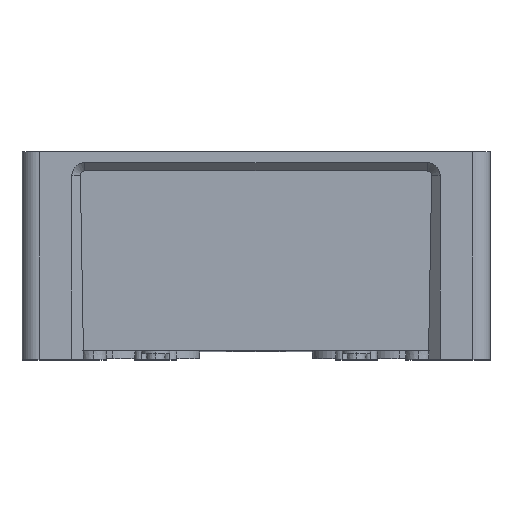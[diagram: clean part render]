
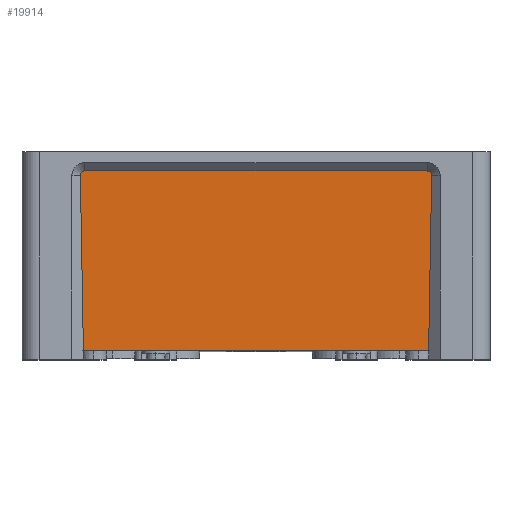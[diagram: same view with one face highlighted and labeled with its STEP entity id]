
A CAD part, top view. The second image highlights one B-rep face of the part: STEP entity #19914.
In plain terms, the highlighted planar face has unit normal (0, -0.018, 1).
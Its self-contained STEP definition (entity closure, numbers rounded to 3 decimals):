
#11809 = CARTESIAN_POINT ( 'NONE',  ( 61.255, -8.3, 97.655 ) ) ;
#11810 = CARTESIAN_POINT ( 'NONE',  ( 61.271, -7.376, 97.671 ) ) ;
#11811 = CARTESIAN_POINT ( 'NONE',  ( 60.624, -6.717, 97.683 ) ) ;
#11812 = CARTESIAN_POINT ( 'NONE',  ( 59.7, -6.717, 97.683 ) ) ;
#11813 =( BOUNDED_CURVE ( )  B_SPLINE_CURVE ( 3, ( #11812, #11811, #11810, #11809 ),
 .UNSPECIFIED., .F., .T. ) 
 B_SPLINE_CURVE_WITH_KNOTS ( ( 4, 4 ),
 ( 0., 1.588 ),
 .UNSPECIFIED. ) 
 CURVE ( )  GEOMETRIC_REPRESENTATION_ITEM ( )  RATIONAL_B_SPLINE_CURVE ( ( 1., 0.801, 0.801, 1. ) ) 
 REPRESENTATION_ITEM ( '' )  );
#11847 = CARTESIAN_POINT ( 'NONE',  ( 61.255, -8.3, 97.655 ) ) ;
#11892 = CARTESIAN_POINT ( 'NONE',  ( -59.7, -6.717, 97.683 ) ) ;
#11893 = CARTESIAN_POINT ( 'NONE',  ( -60.624, -6.717, 97.683 ) ) ;
#11894 = CARTESIAN_POINT ( 'NONE',  ( -61.271, -7.376, 97.671 ) ) ;
#11895 = CARTESIAN_POINT ( 'NONE',  ( -61.255, -8.3, 97.655 ) ) ;
#11896 =( BOUNDED_CURVE ( )  B_SPLINE_CURVE ( 3, ( #11895, #11894, #11893, #11892 ),
 .UNSPECIFIED., .F., .T. ) 
 B_SPLINE_CURVE_WITH_KNOTS ( ( 4, 4 ),
 ( 4.695, 6.283 ),
 .UNSPECIFIED. ) 
 CURVE ( )  GEOMETRIC_REPRESENTATION_ITEM ( )  RATIONAL_B_SPLINE_CURVE ( ( 1., 0.801, 0.801, 1. ) ) 
 REPRESENTATION_ITEM ( '' )  );
#11897 = DIRECTION ( 'NONE',  ( 1., 0., 0. ) ) ;
#11898 = VECTOR ( 'NONE', #11897, 1000. ) ;
#11899 = CARTESIAN_POINT ( 'NONE',  ( -59.7, -6.717, 97.683 ) ) ;
#11900 = LINE ( 'NONE', #11899, #11898 ) ;
#11906 = CARTESIAN_POINT ( 'NONE',  ( 59.7, -6.717, 97.683 ) ) ;
#11941 = CARTESIAN_POINT ( 'NONE',  ( -59.7, -6.717, 97.683 ) ) ;
#11961 = DIRECTION ( 'NONE',  ( 0.017, -1., -0.017 ) ) ;
#11962 = VECTOR ( 'NONE', #11961, 1000. ) ;
#11963 = CARTESIAN_POINT ( 'NONE',  ( -61.257, -8.197, 97.657 ) ) ;
#11964 = LINE ( 'NONE', #11963, #11962 ) ;
#11970 = CARTESIAN_POINT ( 'NONE',  ( -61.255, -8.3, 97.655 ) ) ;
#12007 = DIRECTION ( 'NONE',  ( -0.017, -1., -0.017 ) ) ;
#12008 = VECTOR ( 'NONE', #12007, 1000. ) ;
#12009 = CARTESIAN_POINT ( 'NONE',  ( 61.257, -8.197, 97.657 ) ) ;
#12010 = LINE ( 'NONE', #12009, #12008 ) ;
#12011 = DIRECTION ( 'NONE',  ( 0., -1., -0.017 ) ) ;
#12012 = DIRECTION ( 'NONE',  ( 0., -0.017, 1. ) ) ;
#12013 = CARTESIAN_POINT ( 'NONE',  ( -81.6, 0., 97.8 ) ) ;
#12014 = AXIS2_PLACEMENT_3D ( 'NONE', #12013, #12012, #12011 ) ;
#12015 = PLANE ( 'NONE',  #12014 ) ;
#12016 = FACE_OUTER_BOUND ( 'NONE', #19916, .T. ) ;
#15948 = DIRECTION ( 'NONE',  ( 1., 0., 0. ) ) ;
#15949 = VECTOR ( 'NONE', #15948, 1000. ) ;
#15950 = CARTESIAN_POINT ( 'NONE',  ( -81.6, -69.4, 96.589 ) ) ;
#15951 = LINE ( 'NONE', #15950, #15949 ) ;
#15953 = CARTESIAN_POINT ( 'NONE',  ( -60.189, -69.4, 96.589 ) ) ;
#15954 = CARTESIAN_POINT ( 'NONE',  ( 60.189, -69.4, 96.589 ) ) ;
#19797 = EDGE_CURVE ( 'NONE', #19840, #19807, #11813, .T. ) ;
#19798 = ORIENTED_EDGE ( 'NONE', *, *, #19841, .F. ) ;
#19806 = ORIENTED_EDGE ( 'NONE', *, *, #19917, .F. ) ;
#19807 = VERTEX_POINT ( 'NONE', #11847 ) ;
#19834 = ORIENTED_EDGE ( 'NONE', *, *, #19797, .F. ) ;
#19840 = VERTEX_POINT ( 'NONE', #11906 ) ;
#19841 = EDGE_CURVE ( 'NONE', #19848, #19840, #11900, .T. ) ;
#19842 = ORIENTED_EDGE ( 'NONE', *, *, #19843, .F. ) ;
#19843 = EDGE_CURVE ( 'NONE', #19867, #19848, #11896, .T. ) ;
#19848 = VERTEX_POINT ( 'NONE', #11941 ) ;
#19867 = VERTEX_POINT ( 'NONE', #11970 ) ;
#19868 = ORIENTED_EDGE ( 'NONE', *, *, #19869, .T. ) ;
#19869 = EDGE_CURVE ( 'NONE', #19867, #21864, #11964, .T. ) ;
#19914 = ADVANCED_FACE ( 'NONE', ( #12016 ), #12015, .T. ) ;
#19915 = ORIENTED_EDGE ( 'NONE', *, *, #21869, .T. ) ;
#19916 = EDGE_LOOP ( 'NONE', ( #19915, #19806, #19834, #19798, #19842, #19868 ) ) ;
#19917 = EDGE_CURVE ( 'NONE', #19807, #21862, #12010, .T. ) ;
#21862 = VERTEX_POINT ( 'NONE', #15954 ) ;
#21864 = VERTEX_POINT ( 'NONE', #15953 ) ;
#21869 = EDGE_CURVE ( 'NONE', #21864, #21862, #15951, .T. ) ;
